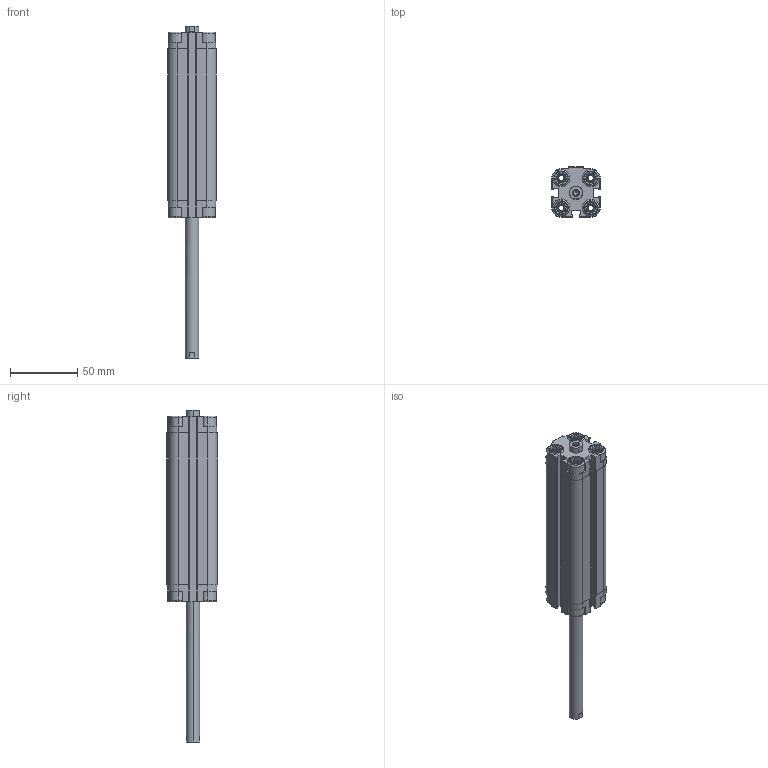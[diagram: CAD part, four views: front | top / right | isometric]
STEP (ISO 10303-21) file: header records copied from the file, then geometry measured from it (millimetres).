
FILE_DESCRIPTION (( 'STEP AP203' ), '1' );
FILE_NAME ('CDVU20-100F-P.STEP', '2020-07-24T18:07:57', ( '' ), ( '' ), 'SwSTEP 2.0', 'SolidWorks 2019', '' );
FILE_SCHEMA (( 'CONFIG_CONTROL_DESIGN' ));
Length unit declared in the file: millimetre
Products named in the file (1): CDVU20-100F-P
Bounding box: 36 x 37.5 x 247 mm (x, y, z)
Volume: 120620.3 mm3; surface area: 58588.9 mm2
Topology: 2 solids, 2 shells, 606 faces, 1598 edges, 1032 vertices
Faces by surface type: plane 358, cylinder 184, cone 48, torus 16
Entity records: 18877 total; most frequent: CARTESIAN_POINT 3805, ORIENTED_EDGE 3180, DIRECTION 3060, EDGE_CURVE 1590, AXIS2_PLACEMENT_3D 1055, VERTEX_POINT 1032, VECTOR 950, LINE 950
